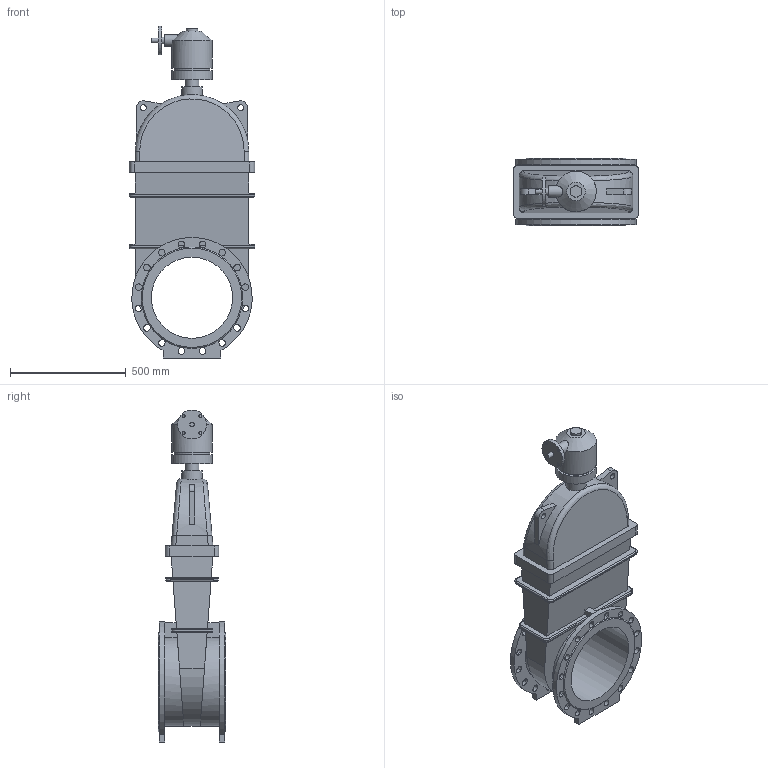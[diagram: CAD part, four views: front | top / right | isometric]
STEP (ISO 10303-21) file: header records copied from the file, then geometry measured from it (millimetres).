
FILE_DESCRIPTION(('STEP AP203'), '1');
FILE_NAME('Çàäâèæêà 47GV.Z DN350 PN10_PN16 + ðåäóêòîð ñ âõîäíûì ôëàíöåì', '', ('UNSPECIFIED'), ('UNSPECIFIED'), 'ASCON STEP Converter 1.6', 'ASCON Math Kernel', '');
FILE_SCHEMA(('CONFIG_CONTROL_DESIGN'));
Length unit declared in the file: millimetre
Bounding box: 540 x 290 x 1432.5 mm (x, y, z)
Volume: 71851721.4 mm3; surface area: 2545188.6 mm2
Topology: 1 solids, 1 shells, 310 faces, 866 edges, 553 vertices
Faces by surface type: plane 155, cylinder 134, bspline 10, torus 8, cone 3
Full cylindrical faces by diameter (mm): 12 x4, 14 x4, 18 x4, 25 x2, 30 x1, 50 x2, 60 x1, 90 x1, 125 x1, 155 x1, 175 x2, 350 x1
Entity records: 14023 total; most frequent: CARTESIAN_POINT 3440, DIRECTION 1689, ORIENTED_EDGE 1646, EDGE_CURVE 823, AXIS2_PLACEMENT_3D 613, VERTEX_POINT 545, LINE 463, VECTOR 463
